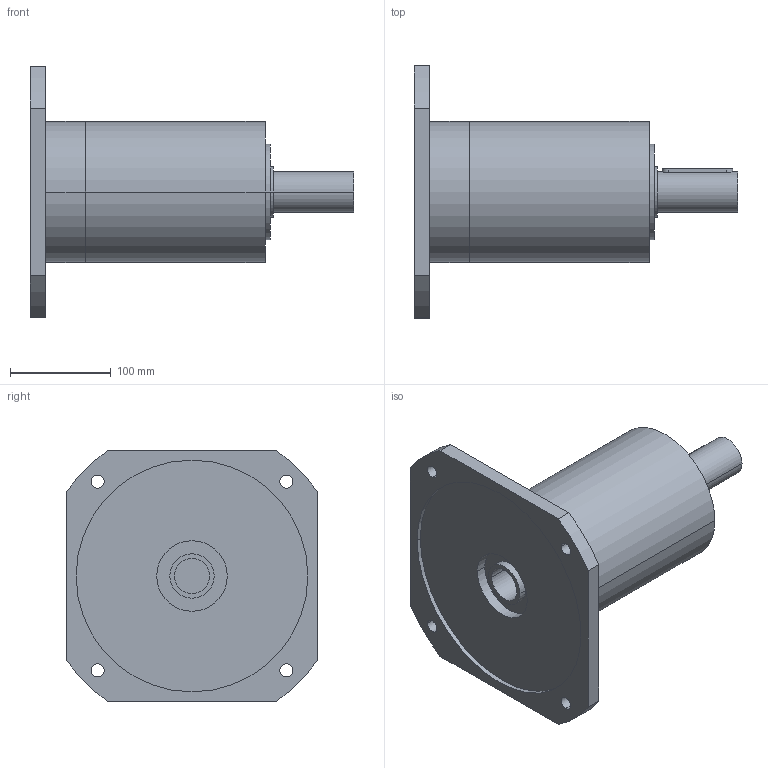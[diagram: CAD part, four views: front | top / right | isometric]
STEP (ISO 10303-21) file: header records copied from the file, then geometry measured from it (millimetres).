
FILE_DESCRIPTION(('CoCreate Modeling STEP Export'),'2;1');
FILE_NAME('GPR150_ig-9-12-16-20-28-35_40_B14_35_P07.stp','2014-08-19T17:04:17',(''),(''),'CoCreate Modeling STEP processor for AP214 (Solid Model)','CoCreate Modeling 16.00C 25-Feb-2009 (C) Parametric Technology GmbH','');
FILE_SCHEMA(('AUTOMOTIVE_DESIGN { 1 0 10303 214 1 1 1 1 }'));
Length unit declared in the file: millimetre
Products named in the file (2): GPR150_ig-9-12-16-20-28-35_40_B14_35_P07
Assembly tree (1 placements, depth 2):
  GPR150_ig-9-12-16-20-28-35_40_B14_35_P07
    GPR150_ig-9-12-16-20-28-35_40_B14_35_P07
Bounding box: 321 x 250 x 250 mm (x, y, z)
Volume: 4080509.5 mm3; surface area: 262767.6 mm2
Topology: 1 solids, 1 shells, 70 faces, 189 edges, 133 vertices
Faces by surface type: cylinder 42, plane 22, cone 6
Entity records: 1968 total; most frequent: CARTESIAN_POINT 385, ORIENTED_EDGE 374, DIRECTION 262, EDGE_CURVE 187, VERTEX_POINT 133, AXIS2_PLACEMENT_3D 98, EDGE_LOOP 92, FACE_OUTER_BOUND 70
